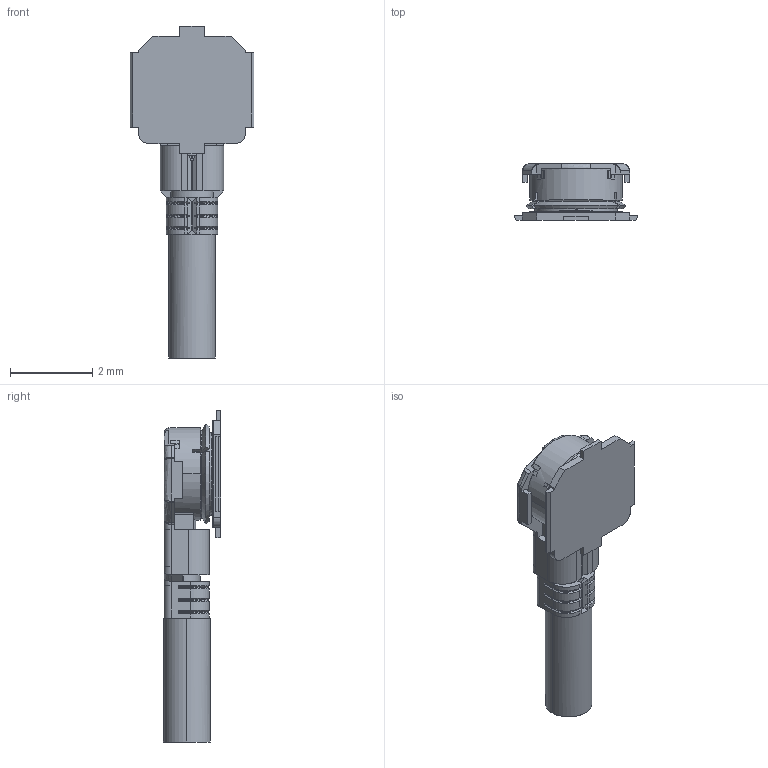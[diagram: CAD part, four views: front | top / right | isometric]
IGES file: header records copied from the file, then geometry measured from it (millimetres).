
Start section: SolidWorks IGES file using analytic representation for surfaces
Global section: file name: C:\3dwork\imaji\MHF-A\MHF-A13\20428+20429C MHF A13 MATING IGES R3R2 ALL.IGS; native system: SolidWorks 2017; preprocessor: SolidWorks 2017; author: ipxcad-013; date: 181213.082758; units: millimetre
Bounding box: 3 x 1.38 x 8.05 mm (x, y, z)
Surface area: 57.3 mm2 (no closed solid volume)
Topology: 0 solids, 0 shells, 384 faces, 2430 edges, 2424 vertices
Faces by surface type: bspline 247, revolution 137
